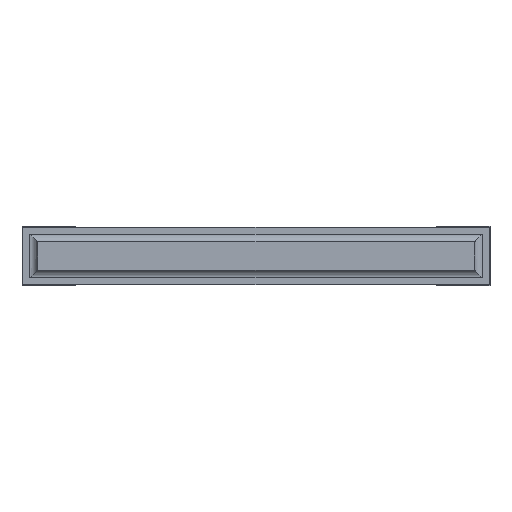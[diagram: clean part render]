
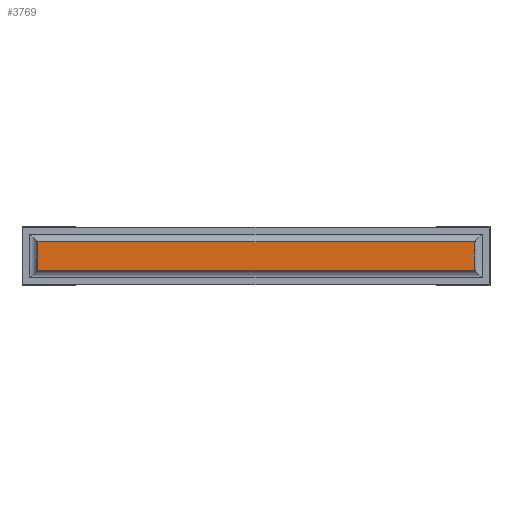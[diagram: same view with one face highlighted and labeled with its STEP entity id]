
A CAD part, front view. The second image highlights one B-rep face of the part: STEP entity #3769.
In plain terms, the highlighted planar face has unit normal (0, -1, 0).
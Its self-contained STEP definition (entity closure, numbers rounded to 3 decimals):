
#155=FACE_OUTER_BOUND('',#390,.T.);
#390=EDGE_LOOP('',(#2531,#2532,#2533,#2534));
#629=LINE('',#5375,#1121);
#635=LINE('',#5392,#1127);
#645=LINE('',#5414,#1137);
#646=LINE('',#5416,#1138);
#1121=VECTOR('',#4315,10.);
#1127=VECTOR('',#4333,10.);
#1137=VECTOR('',#4353,10.);
#1138=VECTOR('',#4356,10.);
#1613=VERTEX_POINT('',#5372);
#1614=VERTEX_POINT('',#5374);
#1619=VERTEX_POINT('',#5390);
#1626=VERTEX_POINT('',#5412);
#1957=EDGE_CURVE('',#1614,#1613,#629,.T.);
#1966=EDGE_CURVE('',#1619,#1613,#635,.T.);
#1977=EDGE_CURVE('',#1626,#1619,#645,.T.);
#1978=EDGE_CURVE('',#1614,#1626,#646,.T.);
#2531=ORIENTED_EDGE('',*,*,#1966,.F.);
#2532=ORIENTED_EDGE('',*,*,#1977,.F.);
#2533=ORIENTED_EDGE('',*,*,#1978,.F.);
#2534=ORIENTED_EDGE('',*,*,#1957,.T.);
#3579=PLANE('',#4039);
#3769=ADVANCED_FACE('',(#155),#3579,.T.);
#4039=AXIS2_PLACEMENT_3D('',#5415,#4354,#4355);
#4315=DIRECTION('',(0.,0.,-1.));
#4333=DIRECTION('',(-1.,0.,0.));
#4353=DIRECTION('',(0.,0.,-1.));
#4354=DIRECTION('center_axis',(0.,-1.,0.));
#4355=DIRECTION('ref_axis',(0.,0.,-1.));
#4356=DIRECTION('',(1.,0.,0.));
#5372=CARTESIAN_POINT('',(0.1,0.,0.1));
#5374=CARTESIAN_POINT('',(0.1,0.,0.28));
#5375=CARTESIAN_POINT('',(0.1,0.,0.28));
#5390=CARTESIAN_POINT('',(2.9,0.,0.1));
#5392=CARTESIAN_POINT('',(2.9,0.,0.1));
#5412=CARTESIAN_POINT('',(2.9,0.,0.28));
#5414=CARTESIAN_POINT('',(2.9,0.,0.28));
#5415=CARTESIAN_POINT('Origin',(2.9,0.,0.19));
#5416=CARTESIAN_POINT('',(0.1,0.,0.28));
